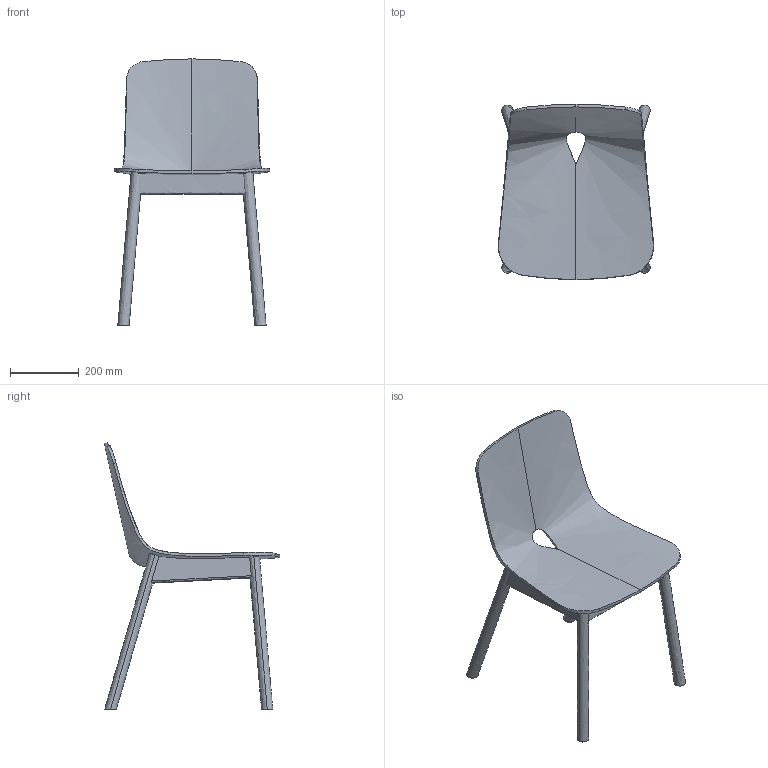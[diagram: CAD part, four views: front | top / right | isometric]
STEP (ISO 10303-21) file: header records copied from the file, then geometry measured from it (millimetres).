
FILE_DESCRIPTION(/* description */ (''),/* implementation_level */ '2;1');
FILE_NAME(/* name */ 'Mono_dining chair',/* time_stamp */ '2019-09-18T13:50:11+02:00',/* author */ (''),/* organization */ (''),/* preprocessor_version */ 'ST-DEVELOPER v15',/* originating_system */ '',/* authorisation */ '');
FILE_SCHEMA (('AUTOMOTIVE_DESIGN'));
Length unit declared in the file: millimetre
Products named in the file (1): Document
Bounding box: 453.87 x 511.83 x 777.17 mm (x, y, z)
Volume: 3923859.5 mm3; surface area: 958106.9 mm2
Topology: 5 solids, 8 shells, 54 faces, 124 edges, 81 vertices
Faces by surface type: bspline 43, plane 11
Entity records: 15394 total; most frequent: CARTESIAN_POINT 14510, ORIENTED_EDGE 236, EDGE_CURVE 123, B_SPLINE_CURVE_WITH_KNOTS 102, VERTEX_POINT 80, ADVANCED_FACE 54, FACE_OUTER_BOUND 54, EDGE_LOOP 54
